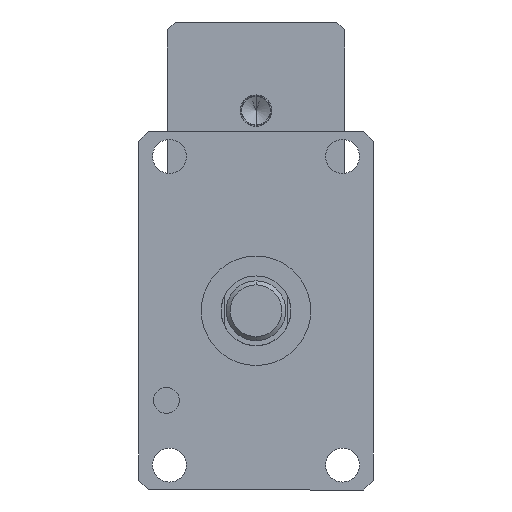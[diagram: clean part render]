
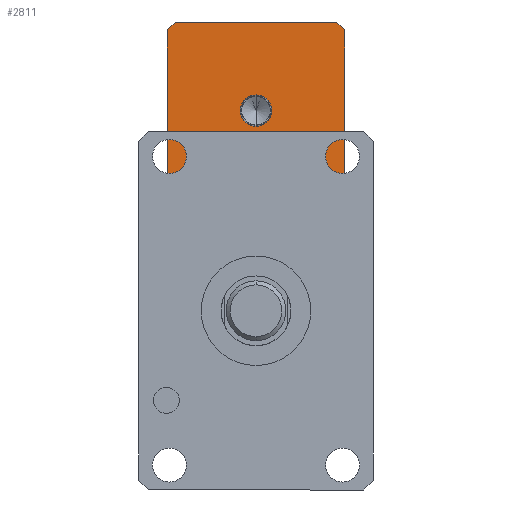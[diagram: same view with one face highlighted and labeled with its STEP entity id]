
A CAD part, front view. The second image highlights one B-rep face of the part: STEP entity #2811.
In plain terms, the highlighted planar face has unit normal (0, -1, 0).
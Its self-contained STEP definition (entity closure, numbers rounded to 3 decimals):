
#10 = VERTEX_POINT ( 'NONE', #10759 ) ;
#404 = AXIS2_PLACEMENT_3D ( 'NONE', #3612, #12307, #6524 ) ;
#634 = CARTESIAN_POINT ( 'NONE',  ( -44.5, 210., 141. ) ) ;
#764 = ORIENTED_EDGE ( 'NONE', *, *, #3104, .F. ) ;
#799 = DIRECTION ( 'NONE',  ( 1., 0., 0. ) ) ;
#1004 = CARTESIAN_POINT ( 'NONE',  ( 40.5, 210., 145. ) ) ;
#1134 = VECTOR ( 'NONE', #1408, 1000. ) ;
#1371 = EDGE_CURVE ( 'NONE', #10, #5174, #8355, .T. ) ;
#1395 = EDGE_CURVE ( 'NONE', #5551, #10, #3210, .T. ) ;
#1408 = DIRECTION ( 'NONE',  ( 0., 0., -1. ) ) ;
#1504 = EDGE_LOOP ( 'NONE', ( #2712, #8153 ) ) ;
#1720 = ORIENTED_EDGE ( 'NONE', *, *, #3166, .T. ) ;
#2076 = FACE_OUTER_BOUND ( 'NONE', #10054, .T. ) ;
#2110 = CARTESIAN_POINT ( 'NONE',  ( 0., 210., 108.403 ) ) ;
#2433 = VERTEX_POINT ( 'NONE', #5179 ) ;
#2522 = AXIS2_PLACEMENT_3D ( 'NONE', #5499, #12218, #6432 ) ;
#2712 = ORIENTED_EDGE ( 'NONE', *, *, #8094, .F. ) ;
#2748 = EDGE_CURVE ( 'NONE', #5098, #10252, #5620, .T. ) ;
#2811 = ADVANCED_FACE ( 'NONE', ( #12389, #2076 ), #11354, .F. ) ;
#2830 = CIRCLE ( 'NONE', #6294, 7.903 ) ;
#2856 = DIRECTION ( 'NONE',  ( 0.707, 0., -0.707 ) ) ;
#2991 = EDGE_CURVE ( 'NONE', #2433, #11553, #11694, .T. ) ;
#3058 = CARTESIAN_POINT ( 'NONE',  ( 0., 210., 100.5 ) ) ;
#3059 = ORIENTED_EDGE ( 'NONE', *, *, #1371, .T. ) ;
#3104 = EDGE_CURVE ( 'NONE', #2433, #5938, #10510, .T. ) ;
#3166 = EDGE_CURVE ( 'NONE', #5174, #5938, #12146, .T. ) ;
#3210 = LINE ( 'NONE', #5812, #5199 ) ;
#3254 = EDGE_CURVE ( 'NONE', #5098, #11553, #10953, .T. ) ;
#3357 = VERTEX_POINT ( 'NONE', #12535 ) ;
#3612 = CARTESIAN_POINT ( 'NONE',  ( 44.5, 210., 145. ) ) ;
#3792 = ORIENTED_EDGE ( 'NONE', *, *, #2748, .T. ) ;
#4044 = DIRECTION ( 'NONE',  ( 0., 0., -1. ) ) ;
#4129 = ORIENTED_EDGE ( 'NONE', *, *, #3254, .F. ) ;
#4429 = CARTESIAN_POINT ( 'NONE',  ( 44.5, 210., 60. ) ) ;
#5065 = VECTOR ( 'NONE', #8204, 1000. ) ;
#5098 = VERTEX_POINT ( 'NONE', #9786 ) ;
#5174 = VERTEX_POINT ( 'NONE', #8932 ) ;
#5179 = CARTESIAN_POINT ( 'NONE',  ( 44.5, 210., 141. ) ) ;
#5199 = VECTOR ( 'NONE', #2856, 1000. ) ;
#5328 = CARTESIAN_POINT ( 'NONE',  ( 44.5, 210., 145. ) ) ;
#5466 = DIRECTION ( 'NONE',  ( -0.707, 0., -0.707 ) ) ;
#5499 = CARTESIAN_POINT ( 'NONE',  ( 0., 210., 100.5 ) ) ;
#5551 = VERTEX_POINT ( 'NONE', #9366 ) ;
#5575 = DIRECTION ( 'NONE',  ( 1., 0., 0. ) ) ;
#5620 = LINE ( 'NONE', #7342, #8154 ) ;
#5800 = VECTOR ( 'NONE', #799, 1000. ) ;
#5812 = CARTESIAN_POINT ( 'NONE',  ( -44.5, 210., 60. ) ) ;
#5840 = DIRECTION ( 'NONE',  ( -0.707, 0., 0.707 ) ) ;
#5938 = VERTEX_POINT ( 'NONE', #4429 ) ;
#6294 = AXIS2_PLACEMENT_3D ( 'NONE', #3058, #9817, #4044 ) ;
#6432 = DIRECTION ( 'NONE',  ( 0., 0., -1. ) ) ;
#6524 = DIRECTION ( 'NONE',  ( 0., 0., 1. ) ) ;
#6551 = VECTOR ( 'NONE', #5840, 1000. ) ;
#6668 = CIRCLE ( 'NONE', #2522, 7.903 ) ;
#6669 = CARTESIAN_POINT ( 'NONE',  ( 44.5, 210., 56. ) ) ;
#6689 = VECTOR ( 'NONE', #10260, 1000. ) ;
#6811 = ORIENTED_EDGE ( 'NONE', *, *, #1395, .T. ) ;
#7342 = CARTESIAN_POINT ( 'NONE',  ( -40.5, 210., 145. ) ) ;
#7697 = CARTESIAN_POINT ( 'NONE',  ( 40.5, 210., 145. ) ) ;
#8094 = EDGE_CURVE ( 'NONE', #3357, #9546, #2830, .T. ) ;
#8153 = ORIENTED_EDGE ( 'NONE', *, *, #12522, .F. ) ;
#8154 = VECTOR ( 'NONE', #5466, 1000. ) ;
#8204 = DIRECTION ( 'NONE',  ( 0., 0., -1. ) ) ;
#8355 = LINE ( 'NONE', #6669, #5800 ) ;
#8366 = VECTOR ( 'NONE', #5575, 1000. ) ;
#8459 = CARTESIAN_POINT ( 'NONE',  ( 44.5, 210., 145. ) ) ;
#8753 = EDGE_CURVE ( 'NONE', #10252, #5551, #11476, .T. ) ;
#8932 = CARTESIAN_POINT ( 'NONE',  ( 40.5, 210., 56. ) ) ;
#8953 = CARTESIAN_POINT ( 'NONE',  ( -44.5, 210., 145. ) ) ;
#9273 = CARTESIAN_POINT ( 'NONE',  ( 44.5, 210., 60. ) ) ;
#9366 = CARTESIAN_POINT ( 'NONE',  ( -44.5, 210., 60. ) ) ;
#9446 = ORIENTED_EDGE ( 'NONE', *, *, #8753, .T. ) ;
#9546 = VERTEX_POINT ( 'NONE', #2110 ) ;
#9786 = CARTESIAN_POINT ( 'NONE',  ( -40.5, 210., 145. ) ) ;
#9817 = DIRECTION ( 'NONE',  ( 0., -1., 0. ) ) ;
#10054 = EDGE_LOOP ( 'NONE', ( #9446, #6811, #3059, #1720, #764, #12236, #4129, #3792 ) ) ;
#10252 = VERTEX_POINT ( 'NONE', #634 ) ;
#10260 = DIRECTION ( 'NONE',  ( 0.707, 0., 0.707 ) ) ;
#10510 = LINE ( 'NONE', #5328, #5065 ) ;
#10759 = CARTESIAN_POINT ( 'NONE',  ( -40.5, 210., 56. ) ) ;
#10953 = LINE ( 'NONE', #8459, #8366 ) ;
#11354 = PLANE ( 'NONE',  #404 ) ;
#11476 = LINE ( 'NONE', #8953, #1134 ) ;
#11553 = VERTEX_POINT ( 'NONE', #1004 ) ;
#11694 = LINE ( 'NONE', #7697, #6551 ) ;
#12146 = LINE ( 'NONE', #9273, #6689 ) ;
#12218 = DIRECTION ( 'NONE',  ( 0., -1., 0. ) ) ;
#12236 = ORIENTED_EDGE ( 'NONE', *, *, #2991, .T. ) ;
#12307 = DIRECTION ( 'NONE',  ( 0., 1., 0. ) ) ;
#12389 = FACE_BOUND ( 'NONE', #1504, .T. ) ;
#12522 = EDGE_CURVE ( 'NONE', #9546, #3357, #6668, .T. ) ;
#12535 = CARTESIAN_POINT ( 'NONE',  ( 0., 210., 92.597 ) ) ;
